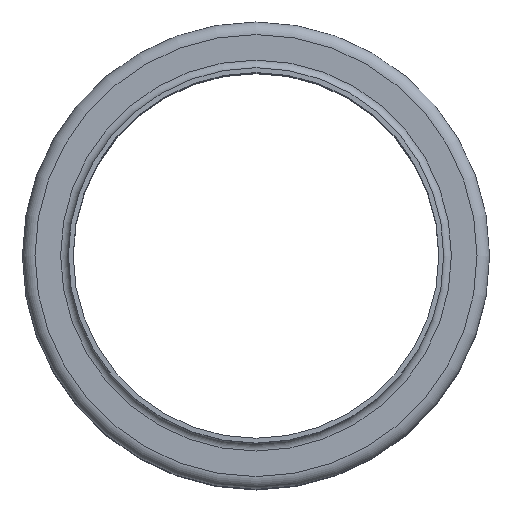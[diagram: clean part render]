
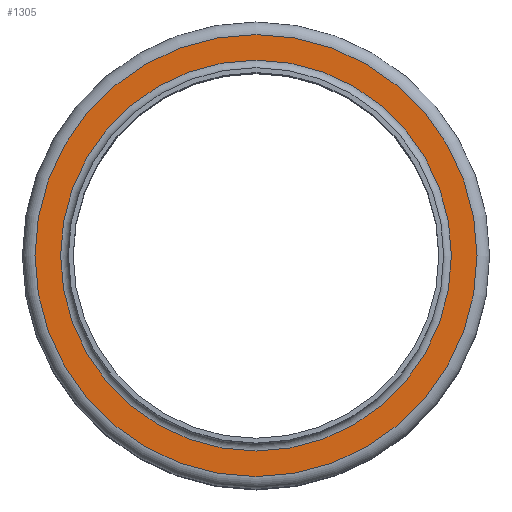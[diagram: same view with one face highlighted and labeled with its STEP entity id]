
A CAD part, top view. The second image highlights one B-rep face of the part: STEP entity #1305.
In plain terms, the highlighted planar face has unit normal (0, 0, 1).
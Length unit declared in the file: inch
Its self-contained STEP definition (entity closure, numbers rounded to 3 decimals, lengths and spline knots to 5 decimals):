
#130=FACE_BOUND('',#384,.T.);
#229=FACE_OUTER_BOUND('',#383,.T.);
#383=EDGE_LOOP('',(#1108));
#384=EDGE_LOOP('',(#1109));
#545=CIRCLE('',#1574,2.405);
#546=CIRCLE('',#1576,2.72);
#658=VERTEX_POINT('',#2470);
#659=VERTEX_POINT('',#2474);
#811=EDGE_CURVE('',#658,#658,#545,.T.);
#812=EDGE_CURVE('',#659,#659,#546,.T.);
#1108=ORIENTED_EDGE('',*,*,#812,.F.);
#1109=ORIENTED_EDGE('',*,*,#811,.T.);
#1206=PLANE('',#1575);
#1305=ADVANCED_FACE('',(#229,#130),#1206,.T.);
#1574=AXIS2_PLACEMENT_3D('',#2472,#2070,#2071);
#1575=AXIS2_PLACEMENT_3D('',#2473,#2072,#2073);
#1576=AXIS2_PLACEMENT_3D('',#2475,#2074,#2075);
#2070=DIRECTION('center_axis',(0.,0.,-1.));
#2071=DIRECTION('ref_axis',(1.,0.,0.));
#2072=DIRECTION('center_axis',(0.,0.,1.));
#2073=DIRECTION('ref_axis',(1.,0.,0.));
#2074=DIRECTION('center_axis',(0.,0.,-1.));
#2075=DIRECTION('ref_axis',(1.,0.,0.));
#2470=CARTESIAN_POINT('',(2.405,0.,-0.095));
#2472=CARTESIAN_POINT('Origin',(0.,0.,-0.095));
#2473=CARTESIAN_POINT('Origin',(0.,2.72,-0.095));
#2474=CARTESIAN_POINT('',(2.72,0.,-0.095));
#2475=CARTESIAN_POINT('Origin',(0.,0.,-0.095));
